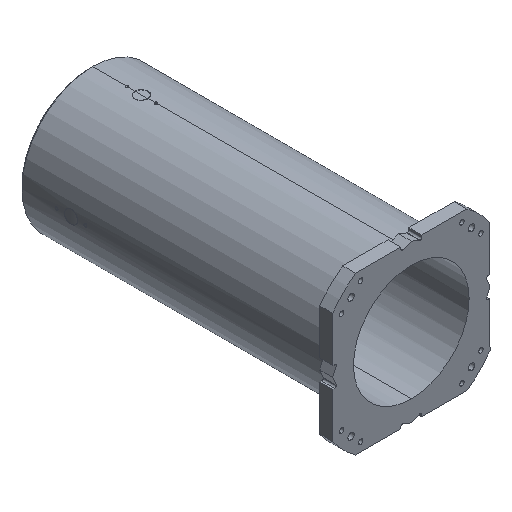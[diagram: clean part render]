
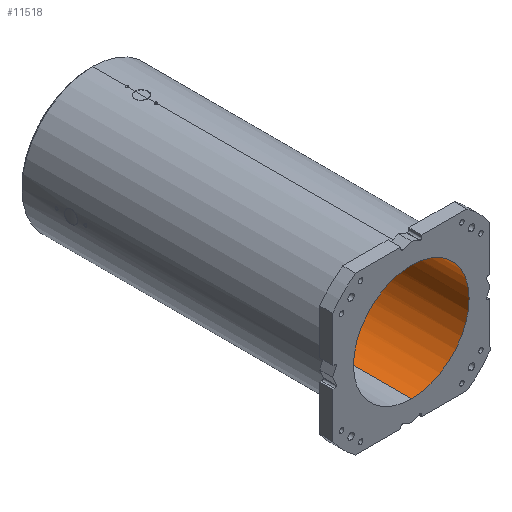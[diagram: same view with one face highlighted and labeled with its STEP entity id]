
A CAD part, isometric view. The second image highlights one B-rep face of the part: STEP entity #11518.
In plain terms, the highlighted cylindrical face has radius 180 mm (diameter 360 mm), a partial arc.
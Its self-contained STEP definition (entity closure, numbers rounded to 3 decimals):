
#307 = CARTESIAN_POINT ( 'NONE',  ( 0., 963., 0. ) ) ;
#314 = EDGE_CURVE ( 'NONE', #9233, #10967, #2870, .T. ) ;
#495 = DIRECTION ( 'NONE',  ( 0., 1., 0. ) ) ;
#1433 = CARTESIAN_POINT ( 'NONE',  ( 131.304, 963., 123.123 ) ) ;
#1590 = EDGE_CURVE ( 'NONE', #4494, #4746, #8898, .T. ) ;
#1758 = CARTESIAN_POINT ( 'NONE',  ( 0., 0., -180. ) ) ;
#1947 = AXIS2_PLACEMENT_3D ( 'NONE', #3464, #6191, #9992 ) ;
#2050 = AXIS2_PLACEMENT_3D ( 'NONE', #10425, #9544, #7580 ) ;
#2166 = AXIS2_PLACEMENT_3D ( 'NONE', #10872, #3863, #7237 ) ;
#2694 = AXIS2_PLACEMENT_3D ( 'NONE', #307, #4713, #8305 ) ;
#2763 = LINE ( 'NONE', #4633, #7792 ) ;
#2866 = CARTESIAN_POINT ( 'NONE',  ( 123.123, 963., -131.304 ) ) ;
#2870 = CIRCLE ( 'NONE', #1947, 180. ) ;
#2903 = CIRCLE ( 'NONE', #5527, 180. ) ;
#3246 = ORIENTED_EDGE ( 'NONE', *, *, #4190, .F. ) ;
#3464 = CARTESIAN_POINT ( 'NONE',  ( 0., 963., 0. ) ) ;
#3608 = CARTESIAN_POINT ( 'NONE',  ( 0., 963., 180. ) ) ;
#3863 = DIRECTION ( 'NONE',  ( 0., 1., 0. ) ) ;
#3982 = DIRECTION ( 'NONE',  ( 0., 1., 0. ) ) ;
#4028 = CARTESIAN_POINT ( 'NONE',  ( 123.123, 963., 131.304 ) ) ;
#4029 = CIRCLE ( 'NONE', #2166, 180. ) ;
#4052 = FACE_OUTER_BOUND ( 'NONE', #9987, .T. ) ;
#4073 = ORIENTED_EDGE ( 'NONE', *, *, #5513, .T. ) ;
#4190 = EDGE_CURVE ( 'NONE', #4475, #5307, #4029, .T. ) ;
#4475 = VERTEX_POINT ( 'NONE', #10909 ) ;
#4494 = VERTEX_POINT ( 'NONE', #2866 ) ;
#4540 = ORIENTED_EDGE ( 'NONE', *, *, #9661, .T. ) ;
#4633 = CARTESIAN_POINT ( 'NONE',  ( 0., 0., 180. ) ) ;
#4713 = DIRECTION ( 'NONE',  ( 0., 1., 0. ) ) ;
#4746 = VERTEX_POINT ( 'NONE', #7410 ) ;
#4868 = CARTESIAN_POINT ( 'NONE',  ( 0., 963., 0. ) ) ;
#4903 = VERTEX_POINT ( 'NONE', #1433 ) ;
#5258 = DIRECTION ( 'NONE',  ( 0., 1., 0. ) ) ;
#5307 = VERTEX_POINT ( 'NONE', #11013 ) ;
#5513 = EDGE_CURVE ( 'NONE', #4475, #9233, #2763, .T. ) ;
#5527 = AXIS2_PLACEMENT_3D ( 'NONE', #8492, #495, #10966 ) ;
#5841 = CIRCLE ( 'NONE', #6587, 180. ) ;
#5878 = DIRECTION ( 'NONE',  ( 0., 0., 1. ) ) ;
#6051 = ORIENTED_EDGE ( 'NONE', *, *, #1590, .T. ) ;
#6191 = DIRECTION ( 'NONE',  ( 0., 1., 0. ) ) ;
#6215 = LINE ( 'NONE', #1758, #11509 ) ;
#6587 = AXIS2_PLACEMENT_3D ( 'NONE', #4868, #3982, #5878 ) ;
#6892 = ORIENTED_EDGE ( 'NONE', *, *, #9177, .F. ) ;
#7237 = DIRECTION ( 'NONE',  ( 0., 0., 1. ) ) ;
#7410 = CARTESIAN_POINT ( 'NONE',  ( 0., 963., -180. ) ) ;
#7580 = DIRECTION ( 'NONE',  ( 0., 0., 1. ) ) ;
#7634 = VERTEX_POINT ( 'NONE', #8319 ) ;
#7637 = CYLINDRICAL_SURFACE ( 'NONE', #2050, 180. ) ;
#7713 = EDGE_CURVE ( 'NONE', #4903, #7634, #2903, .T. ) ;
#7792 = VECTOR ( 'NONE', #8781, 1000. ) ;
#7844 = ORIENTED_EDGE ( 'NONE', *, *, #7713, .T. ) ;
#8305 = DIRECTION ( 'NONE',  ( 0., 0., 1. ) ) ;
#8319 = CARTESIAN_POINT ( 'NONE',  ( 131.304, 963., -123.123 ) ) ;
#8492 = CARTESIAN_POINT ( 'NONE',  ( 0., 963., 0. ) ) ;
#8781 = DIRECTION ( 'NONE',  ( 0., 1., 0. ) ) ;
#8898 = CIRCLE ( 'NONE', #9856, 180. ) ;
#9177 = EDGE_CURVE ( 'NONE', #5307, #4746, #6215, .T. ) ;
#9233 = VERTEX_POINT ( 'NONE', #3608 ) ;
#9483 = ORIENTED_EDGE ( 'NONE', *, *, #9882, .T. ) ;
#9544 = DIRECTION ( 'NONE',  ( 0., 1., 0. ) ) ;
#9661 = EDGE_CURVE ( 'NONE', #10967, #4903, #10393, .T. ) ;
#9856 = AXIS2_PLACEMENT_3D ( 'NONE', #11410, #10475, #10698 ) ;
#9882 = EDGE_CURVE ( 'NONE', #7634, #4494, #5841, .T. ) ;
#9987 = EDGE_LOOP ( 'NONE', ( #6892, #3246, #4073, #10680, #4540, #7844, #9483, #6051 ) ) ;
#9992 = DIRECTION ( 'NONE',  ( 0., 0., 1. ) ) ;
#10393 = CIRCLE ( 'NONE', #2694, 180. ) ;
#10425 = CARTESIAN_POINT ( 'NONE',  ( 0., 0., 0. ) ) ;
#10475 = DIRECTION ( 'NONE',  ( 0., 1., 0. ) ) ;
#10680 = ORIENTED_EDGE ( 'NONE', *, *, #314, .T. ) ;
#10698 = DIRECTION ( 'NONE',  ( 0., 0., 1. ) ) ;
#10872 = CARTESIAN_POINT ( 'NONE',  ( 0., 0., 0. ) ) ;
#10909 = CARTESIAN_POINT ( 'NONE',  ( 0., 0., 180. ) ) ;
#10966 = DIRECTION ( 'NONE',  ( 0., 0., 1. ) ) ;
#10967 = VERTEX_POINT ( 'NONE', #4028 ) ;
#11013 = CARTESIAN_POINT ( 'NONE',  ( 0., 0., -180. ) ) ;
#11410 = CARTESIAN_POINT ( 'NONE',  ( 0., 963., 0. ) ) ;
#11509 = VECTOR ( 'NONE', #5258, 1000. ) ;
#11518 = ADVANCED_FACE ( 'NONE', ( #4052 ), #7637, .F. ) ;
